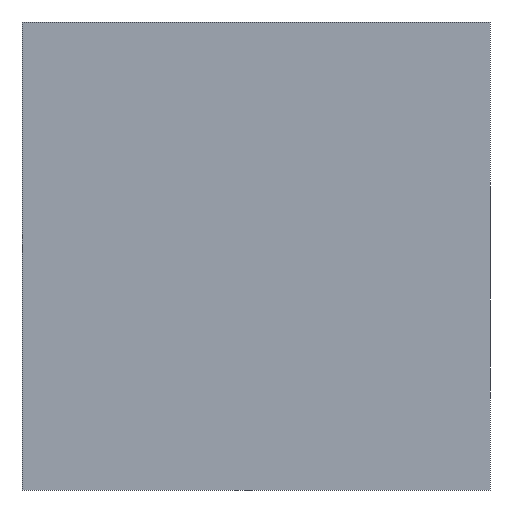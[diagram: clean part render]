
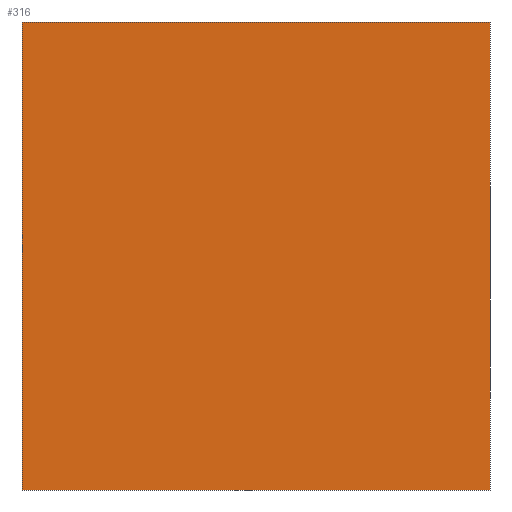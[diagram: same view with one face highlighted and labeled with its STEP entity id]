
A CAD part, front view. The second image highlights one B-rep face of the part: STEP entity #316.
In plain terms, the highlighted planar face has unit normal (0, -1, 0).
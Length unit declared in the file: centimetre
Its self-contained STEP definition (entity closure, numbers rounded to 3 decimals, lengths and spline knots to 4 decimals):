
#2 = ORIENTED_EDGE ( 'NONE', *, *, #375, .T. ) ;
#18 = LINE ( 'NONE', #127, #403 ) ;
#23 = VERTEX_POINT ( 'NONE', #66 ) ;
#30 = DIRECTION ( 'NONE',  ( 0., 0., 1. ) ) ;
#37 = VECTOR ( 'NONE', #100, 100. ) ;
#43 = VERTEX_POINT ( 'NONE', #82 ) ;
#53 = FACE_OUTER_BOUND ( 'NONE', #58, .T. ) ;
#58 = EDGE_LOOP ( 'NONE', ( #2, #173, #267, #99 ) ) ;
#66 = CARTESIAN_POINT ( 'NONE',  ( 0., 0., 1000. ) ) ;
#67 = LINE ( 'NONE', #301, #37 ) ;
#70 = DIRECTION ( 'NONE',  ( 0., 0., -1. ) ) ;
#82 = CARTESIAN_POINT ( 'NONE',  ( 0., 0., 0. ) ) ;
#84 = CARTESIAN_POINT ( 'NONE',  ( 1000., 0., 1000. ) ) ;
#94 = VERTEX_POINT ( 'NONE', #147 ) ;
#97 = EDGE_CURVE ( 'NONE', #23, #165, #400, .T. ) ;
#99 = ORIENTED_EDGE ( 'NONE', *, *, #414, .T. ) ;
#100 = DIRECTION ( 'NONE',  ( 1., 0., 0. ) ) ;
#105 = CARTESIAN_POINT ( 'NONE',  ( 0., 0., 1000. ) ) ;
#110 = DIRECTION ( 'NONE',  ( 1., 0., 0. ) ) ;
#125 = PLANE ( 'NONE',  #361 ) ;
#127 = CARTESIAN_POINT ( 'NONE',  ( 1000., 0., 1000. ) ) ;
#147 = CARTESIAN_POINT ( 'NONE',  ( 1000., 0., 0. ) ) ;
#165 = VERTEX_POINT ( 'NONE', #84 ) ;
#173 = ORIENTED_EDGE ( 'NONE', *, *, #191, .F. ) ;
#178 = VECTOR ( 'NONE', #110, 100. ) ;
#191 = EDGE_CURVE ( 'NONE', #165, #94, #18, .T. ) ;
#202 = LINE ( 'NONE', #105, #337 ) ;
#225 = DIRECTION ( 'NONE',  ( 0., 0., -1. ) ) ;
#267 = ORIENTED_EDGE ( 'NONE', *, *, #97, .F. ) ;
#301 = CARTESIAN_POINT ( 'NONE',  ( 0., 0., 0. ) ) ;
#316 = ADVANCED_FACE ( 'NONE', ( #53 ), #125, .F. ) ;
#331 = DIRECTION ( 'NONE',  ( 0., 1., 0. ) ) ;
#337 = VECTOR ( 'NONE', #70, 100. ) ;
#361 = AXIS2_PLACEMENT_3D ( 'NONE', #378, #331, #30 ) ;
#369 = CARTESIAN_POINT ( 'NONE',  ( 0., 0., 1000. ) ) ;
#375 = EDGE_CURVE ( 'NONE', #43, #94, #67, .T. ) ;
#378 = CARTESIAN_POINT ( 'NONE',  ( 0., 0., 1000. ) ) ;
#400 = LINE ( 'NONE', #369, #178 ) ;
#403 = VECTOR ( 'NONE', #225, 100. ) ;
#414 = EDGE_CURVE ( 'NONE', #23, #43, #202, .T. ) ;
